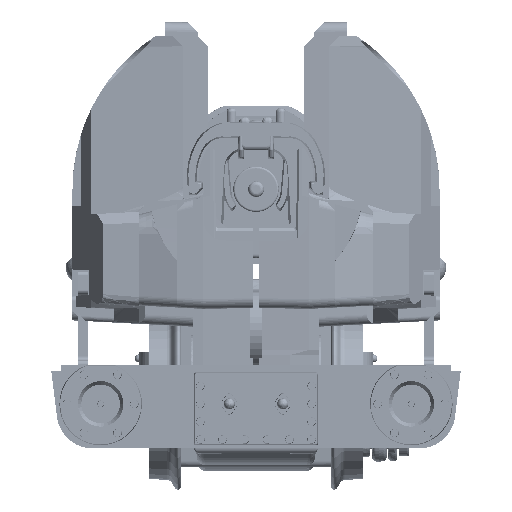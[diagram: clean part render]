
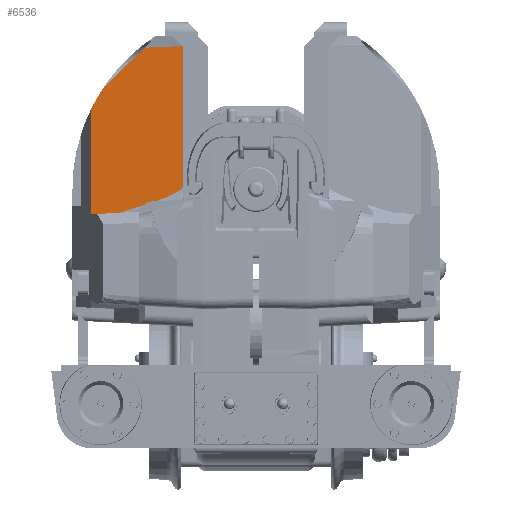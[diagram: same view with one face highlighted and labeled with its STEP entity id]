
A CAD part, left-side view. The second image highlights one B-rep face of the part: STEP entity #6536.
In plain terms, the highlighted planar face has unit normal (-0.999, 0.052, 0).
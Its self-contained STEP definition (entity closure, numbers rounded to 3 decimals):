
#6536=ADVANCED_FACE('',(#19802),#19803,.F.);
#19802=FACE_OUTER_BOUND('',#43013,.T.);
#19803=PLANE('',#43014);
#43013=EDGE_LOOP('',(#94466,#94467,#94468,#94469,#94470,#94471,#94472));
#43014=AXIS2_PLACEMENT_3D('',#94473,#94474,#94475);
#94466=ORIENTED_EDGE('',*,*,#116455,.F.);
#94467=ORIENTED_EDGE('',*,*,#116456,.T.);
#94468=ORIENTED_EDGE('',*,*,#116457,.T.);
#94469=ORIENTED_EDGE('',*,*,#116458,.F.);
#94470=ORIENTED_EDGE('',*,*,#116459,.F.);
#94471=ORIENTED_EDGE('',*,*,#116460,.F.);
#94472=ORIENTED_EDGE('',*,*,#116461,.T.);
#94473=CARTESIAN_POINT('',(-12.465,130.817,-27.352));
#94474=DIRECTION('',(0.999,-0.052,0.0));
#94475=DIRECTION('',(-0.052,-0.999,0.0));
#116455=EDGE_CURVE('',#144833,#144834,#144835,.T.);
#116456=EDGE_CURVE('',#144833,#144836,#144837,.T.);
#116457=EDGE_CURVE('',#144836,#144838,#144839,.F.);
#116458=EDGE_CURVE('',#144840,#144838,#144841,.T.);
#116459=EDGE_CURVE('',#144842,#144840,#144843,.F.);
#116460=EDGE_CURVE('',#144844,#144842,#144845,.T.);
#116461=EDGE_CURVE('',#144844,#144834,#144846,.T.);
#144833=VERTEX_POINT('',#196447);
#144834=VERTEX_POINT('',#196448);
#144835=B_SPLINE_CURVE_WITH_KNOTS('',3,(#196449,#196450,#196451,#196452,#196453,#196454,#196455,#196456,#196457,#196458,#196459,#196460),.UNSPECIFIED.,.F.,.F.,(4,2,2,2,2,4),(0.,0.,0.,0.001,0.002,0.004),.UNSPECIFIED.);
#144836=VERTEX_POINT('',#196461);
#144837=LINE('',#196462,#196463);
#144838=VERTEX_POINT('',#196464);
#144839=LINE('',#196465,#196466);
#144840=VERTEX_POINT('',#196467);
#144841=LINE('',#196468,#196469);
#144842=VERTEX_POINT('',#196470);
#144843=ELLIPSE('',#196471,9.288,9.275);
#144844=VERTEX_POINT('',#196472);
#144845=LINE('',#196473,#196474);
#144846=LINE('',#196475,#196476);
#196447=CARTESIAN_POINT('',(-19.127,3.7,14.892));
#196448=CARTESIAN_POINT('',(-18.96,6.899,13.509));
#196449=CARTESIAN_POINT('',(-19.127,3.7,14.892));
#196450=CARTESIAN_POINT('',(-19.127,3.7,14.815));
#196451=CARTESIAN_POINT('',(-19.125,3.747,14.749));
#196452=CARTESIAN_POINT('',(-19.119,3.853,14.643));
#196453=CARTESIAN_POINT('',(-19.116,3.914,14.6));
#196454=CARTESIAN_POINT('',(-19.106,4.104,14.481));
#196455=CARTESIAN_POINT('',(-19.099,4.237,14.418));
#196456=CARTESIAN_POINT('',(-19.078,4.644,14.239));
#196457=CARTESIAN_POINT('',(-19.063,4.923,14.138));
#196458=CARTESIAN_POINT('',(-19.019,5.764,13.85));
#196459=CARTESIAN_POINT('',(-18.989,6.331,13.678));
#196460=CARTESIAN_POINT('',(-18.96,6.899,13.509));
#196461=CARTESIAN_POINT('',(-19.127,3.7,21.934));
#196462=CARTESIAN_POINT('',(-19.127,3.7,14.7));
#196463=VECTOR('',#228344,1000.0);
#196464=CARTESIAN_POINT('',(-19.027,5.619,21.852));
#196465=CARTESIAN_POINT('',(-12.366,132.708,16.389));
#196466=VECTOR('',#228345,1000.0);
#196467=CARTESIAN_POINT('',(-18.917,7.706,19.837));
#196468=CARTESIAN_POINT('',(-14.34,95.04,-64.502));
#196469=VECTOR('',#228346,1000.0);
#196470=CARTESIAN_POINT('',(-18.885,8.325,18.764));
#196471=AXIS2_PLACEMENT_3D('',#228347,#228348,#228349);
#196472=CARTESIAN_POINT('',(-18.885,8.325,13.435));
#196473=CARTESIAN_POINT('',(-18.885,8.325,34.929));
#196474=VECTOR('',#228350,1000.0);
#196475=CARTESIAN_POINT('',(-12.371,132.608,6.921));
#196476=VECTOR('',#228351,1000.0);
#228344=DIRECTION('',(0.0,0.0,1.0));
#228345=DIRECTION('',(-0.052,-0.998,0.043));
#228346=DIRECTION('',(-0.038,-0.719,0.694));
#228347=CARTESIAN_POINT('',(-19.321,0.,14.675));
#228348=DIRECTION('',(-0.999,0.052,0.));
#228349=DIRECTION('',(-0.052,-0.999,0.));
#228350=DIRECTION('',(0.0,0.0,1.0));
#228351=DIRECTION('',(-0.052,-0.997,0.052));
